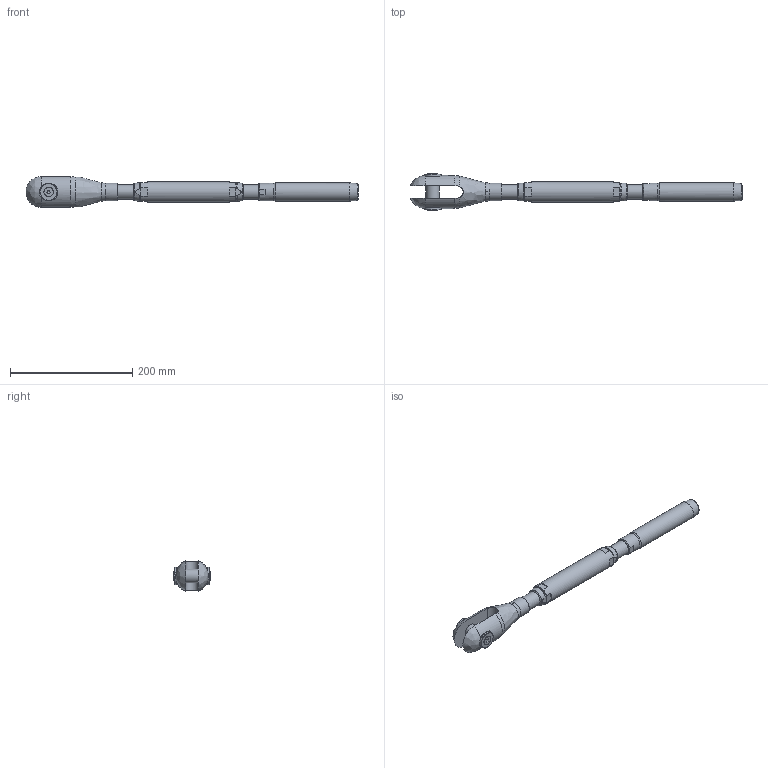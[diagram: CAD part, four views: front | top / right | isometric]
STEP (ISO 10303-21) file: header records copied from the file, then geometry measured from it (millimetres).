
FILE_DESCRIPTION(/* description */ (''),/* implementation_level */ '2;1');
FILE_NAME(/* name */ 'TBC 16_42CrMo4',/* time_stamp */ '2023-05-23T18:16:37+02:00',/* author */ (''),/* organization */ (''),/* preprocessor_version */ 'ST-DEVELOPER v16.5',/* originating_system */ 'Rhino 7.22',/* authorisation */ '');
FILE_SCHEMA (('CONFIG_CONTROL_DESIGN'));
Length unit declared in the file: millimetre
Products named in the file (1): Document
Bounding box: 543.01 x 59.67 x 50.16 mm (x, y, z)
Volume: 432663.8 mm3; surface area: 102806.7 mm2
Topology: 10 solids, 10 shells, 140 faces, 382 edges, 264 vertices
Faces by surface type: plane 65, bspline 40, cylinder 35
Full cylindrical faces by diameter (mm): 6.647 x2, 8 x2, 8.5 x2, 15.24 x2, 20.752 x4, 22 x1, 24 x4, 28 x3, 28.6 x2, 30 x1, 34 x1
Entity records: 5855 total; most frequent: CARTESIAN_POINT 3430, ORIENTED_EDGE 756, EDGE_CURVE 378, VERTEX_POINT 264, EDGE_LOOP 160, B_SPLINE_CURVE_WITH_KNOTS 157, ADVANCED_FACE 140, FACE_OUTER_BOUND 140
